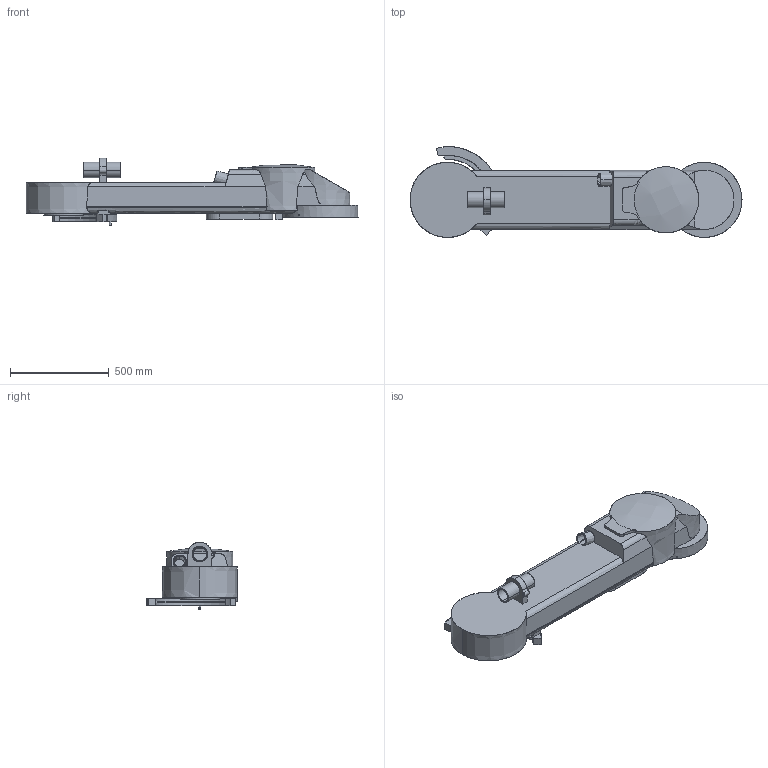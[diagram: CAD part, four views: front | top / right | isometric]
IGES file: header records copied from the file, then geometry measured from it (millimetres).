
Start section: SolidWorks IGES FILE using analytic representation for surfaces
Global section: file name: L:\Projekt\ABB Robotics\P685 PaintRobots2006 CAD-Models\CAD-Underlag IRB5500 TEMPO\SW2004\060711\Left\EngineSaveZip\iges\joints_links\IRB5500_12_T00F71B41V31H51_rev1_3.igs; native system: SolidWorks 2004 by SolidWorks Corporation; preprocessor: Version 5.3; author: joer; date: 060901.140343; units: millimetre
Bounding box: 1680.31 x 460.36 x 342.7 mm (x, y, z)
Surface area: 2035308.3 mm2 (no closed solid volume)
Topology: 0 solids, 0 shells, 236 faces, 5495 edges, 5495 vertices
Faces by surface type: revolution 125, bspline 111
